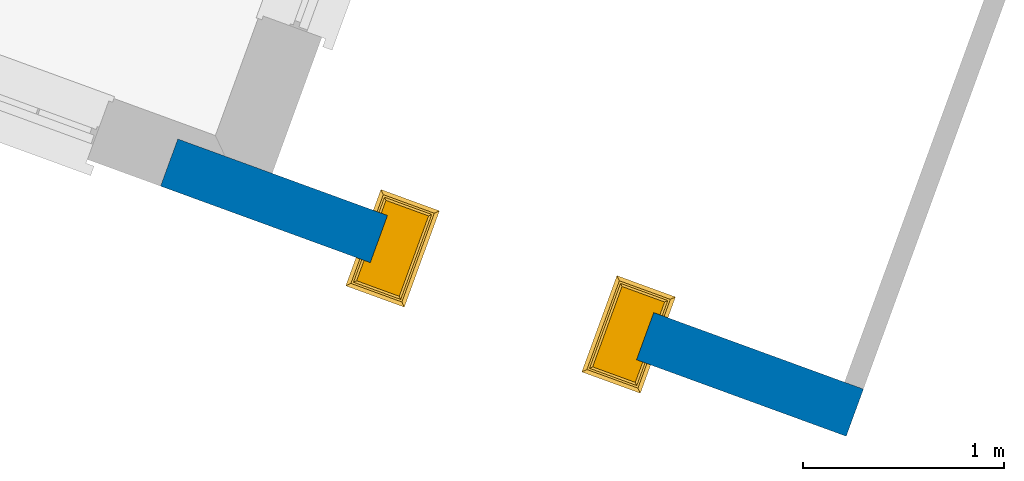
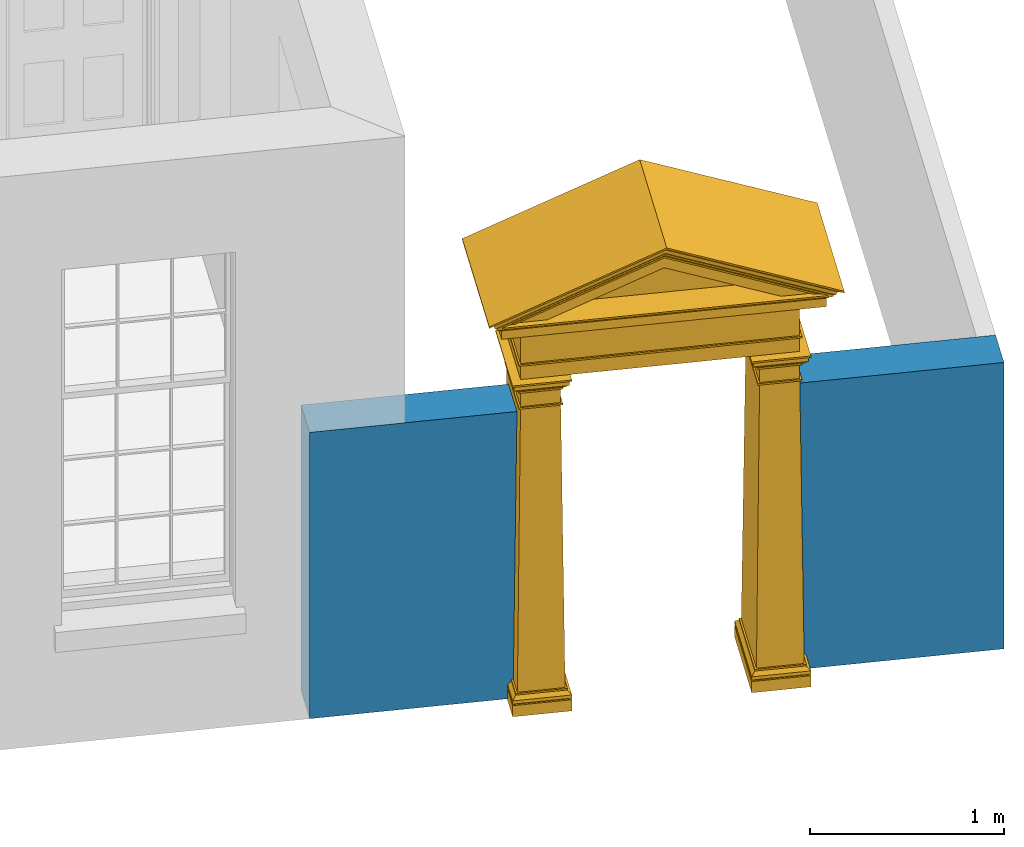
# One storey, part 2 of 6: 1 door, 1 wall, 1 opening.
"""IFC4 building model written with IfcOpenShell, lengths in metres."""

from ifc_helpers import new_model, si_unit, frame, origin, origin_with_axes, place, context, subcontext, project, spatial, polyline, outline, extrude, faceted_brep, source, transform, mapped, material, layer, layer_set, layer_usage, type_object, type_shapes, element, fill, save


model = new_model("IFC4")

# Units and contexts
model_context = context("Model", 3, world=origin_with_axes())
body_context = subcontext(model_context, "Body", "Model", "MODEL_VIEW")
ifc_project = project(units=[si_unit("PLANEANGLEUNIT", "RADIAN"), si_unit("MASSUNIT", "GRAM", prefix="KILO"), si_unit("FORCEUNIT", "NEWTON", prefix="KILO"), si_unit("LENGTHUNIT", "METRE"), si_unit("AREAUNIT", "SQUARE_METRE"), si_unit("VOLUMEUNIT", "CUBIC_METRE")], contexts=[model_context, model_context])

# Sites, building, storey
site_1_placement = place(None, origin_with_axes())
site_1 = spatial("IfcSite", under=ifc_project, at=site_1_placement, Name="Tamar")
site_2_placement = place(site_1_placement, origin_with_axes())
site_2 = spatial("IfcSite", under=site_1, at=site_2_placement, Name="Site plot-12", CompositionType="ELEMENT")
building_placement = place(None, origin_with_axes())
building = spatial("IfcBuilding", under=site_2, at=building_placement, Name="Building plot-12", CompositionType="ELEMENT")
storey_placement = place(None, frame((0.0, 0.0, 26.0), z_axis=(0.0, 0.0, 1.0), x_axis=(1.0, 0.0, 0.0)))
storey = spatial("IfcBuildingStorey", under=building, at=storey_placement, Name="plot-12 0", CompositionType="ELEMENT", Elevation=26.0)

# Wall, opening, door
ifc_material = material(Name="Masonry")
ifc_layer = layer(ifc_material, 0.25, ventilated=False)
ifc_layer_set = layer_set([ifc_layer], Name="fence_0_0.25")
ifc_layer_usage = layer_usage(ifc_layer_set, "AXIS2", "POSITIVE", -0.25)
wall_type = type_object("IfcWallType", Name="fence_0_0.25", PredefinedType="SOLIDWALL", material=ifc_layer_set)
wall_placement = place(storey_placement, frame((237.87153728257, 299.908144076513, 0.0), z_axis=(0.0, 0.0, 1.0), x_axis=(0.939432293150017, -0.342734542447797, 0.0)))
wall = element("IfcWall", 1, at=wall_placement, inside=storey, type_object=wall_type, material=ifc_layer_usage, Name="fence", context=body_context, shape_type="SweptSolid", body=[
    extrude(outline(polyline([(-0.25, -2.19517997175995e-14), (-0.250000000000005, -0.250000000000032), (3.38096917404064, -0.249999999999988), (3.38096917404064, 2.19587344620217e-14), (-0.25, -2.19517997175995e-14)])), origin_with_axes(), (0.0, 0.0, 1.0), 1.8),
])
opening_placement = place(wall_placement, frame((0.860484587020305, 0.0, -0.0100000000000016)))
opening = element("IfcOpeningElement", 2, at=opening_placement, cuts=wall, Name="My Opening", ObjectType="Opening", context=body_context, shape_type="SweptSolid", body=[
    extrude(outline(polyline([(0.0, -0.269999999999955), (1.41000000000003, -0.269999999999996), (1.41000000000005, 1.01999999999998), (1.43218770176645e-14, 1.02000000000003), (0.0, -0.269999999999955)])), origin_with_axes(), (0.0, 0.0, 1.0), 1.81),
])
door_type = type_object("IfcDoorType", Name="gate", OperationType="SINGLE_SWING_LEFT", PredefinedType="NOTDEFINED")
shared_shape = source(origin(), body_context, "Body", "Brep", [
    faceted_brep([(1.565, 0.25, 2.5), (1.565, -0.21, 2.5), (1.565, -0.21, 2.49), (1.565, 0.25, 2.49), (1.445, -0.09, 2.01), (1.215, -0.09, 2.01), (1.215, -0.09, 2.0), (1.445, -0.09, 2.0), (-0.035, -0.09, 2.180001), (-0.025, -0.08, 2.180001), (-0.025, 0.25, 2.180001), (-0.035, 0.25, 2.180001), (-0.025, -0.08, 2.170001), (-0.035, -0.09, 2.170001), (-0.035, 0.25, 2.170001), (-0.025, 0.25, 2.170001), (1.445, -0.09, 2.180001), (1.435, -0.08, 2.180001), (-0.025, -0.08, 2.37), (-0.025, 0.25, 2.37), (1.435, -0.08, 2.170001), (1.445, -0.09, 2.170001), (-0.025, -0.08, 2.08), (-0.025, 0.25, 2.08), (1.445, 0.25, 2.180001), (1.435, 0.25, 2.180001), (1.435, -0.08, 2.37), (-0.035, -0.09, 2.37), (-0.035, 0.25, 2.37), (1.435, 0.25, 2.37), (1.445, 0.25, 2.170001), (1.435, 0.25, 2.170001), (0.235, -0.08, 2.08), (0.235, 0.25, 2.08), (1.175, 0.25, 2.08), (1.175, -0.08, 2.08), (-0.075, 0.25, 2.08), (-0.075, -0.13, 2.08), (1.445, -0.09, 2.37), (-0.035, -0.09, 2.380001), (-0.035, 0.25, 2.380001), (1.445, 0.25, 2.37), (1.435, -0.08, 2.08), (1.435, 0.25, 2.08), (0.235, 0.38, 2.07), (0.235, 0.38, 2.08), (0.235, 0.33, 2.08), (0.235, -0.13, 2.08), (-0.075, 0.25, 2.07), (-0.075, -0.13, 2.07), (1.445, -0.09, 2.380001), (-0.045, -0.1, 2.39), (-0.045, 0.25, 2.39), (1.455, 0.25, 2.39), (1.455, -0.1, 2.39), (1.445, 0.25, 2.380001), (1.485, -0.13, 2.08), (1.485, 0.25, 2.08), (0.235, -0.13, 2.07), (1.175, -0.13, 2.08), (-0.065, 0.25, 2.07), (-0.065, -0.12, 2.07), (-0.055, -0.11, 2.39), (-0.055, 0.25, 2.39), (1.465, 0.25, 2.39), (1.465, -0.11, 2.39), (1.485, 0.25, 2.07), (1.485, -0.13, 2.07), (0.225, 0.25, 2.07), (0.235, 0.25, 2.07), (0.225, -0.12, 2.07), (-0.065, 0.25, 2.04), (-0.065, -0.12, 2.04), (1.475, 0.25, 2.07), (1.475, -0.12, 2.07), (1.175, 0.25, 2.07), (1.185, 0.25, 2.07), (1.185, -0.12, 2.07), (1.175, -0.13, 2.07), (1.175, 0.33, 2.08), (1.175, 0.38, 2.07), (-0.055, -0.11, 2.4), (-0.055, 0.25, 2.4), (1.465, 0.25, 2.4), (1.465, -0.11, 2.4), (0.225, 0.25, 2.04), (0.225, -0.12, 2.04), (-0.055, 0.25, 2.04), (-0.055, -0.11, 2.04), (1.475, 0.25, 2.04), (1.475, -0.12, 2.04), (1.185, 0.25, 2.04), (1.195, 0.25, 2.04), (1.195, -0.11, 2.04), (1.185, -0.12, 2.04), (-0.065, -0.12, 2.4), (-0.065, 0.25, 2.4), (-0.085, -0.14, 2.42), (-0.085, 0.25, 2.42), (-0.085, -0.14, 2.43), (-0.085, 0.25, 2.43), (1.495, 0.25, 2.43), (1.495, -0.14, 2.43), (1.495, -0.14, 2.42), (1.495, 0.25, 2.42), (1.475, 0.25, 2.4), (1.475, -0.12, 2.4), (0.215, 0.25, 2.04), (0.215, -0.11, 2.04), (-0.055, 0.25, 2.03), (-0.055, -0.11, 2.03), (0.215, 0.25, 2.03), (0.215, -0.11, 2.03), (1.465, 0.25, 2.04), (1.465, -0.11, 2.04), (1.195, 0.25, 2.03), (1.195, -0.11, 2.03), (1.465, 0.25, 2.03), (1.465, -0.11, 2.03), (-0.145, -0.2, 2.43), (-0.145, 0.25, 2.43), (1.555, 0.25, 2.43), (1.555, -0.2, 2.43), (-0.035, 0.25, 2.01), (-0.035, -0.09, 2.01), (0.195, 0.25, 2.01), (0.195, -0.09, 2.01), (1.215, 0.25, 2.01), (1.445, 0.25, 2.01), (-0.145, -0.2, 2.49), (-0.145, 0.25, 2.49), (1.555, 0.25, 2.49), (1.555, -0.2, 2.49), (-0.035, 0.25, 2.0), (-0.035, -0.09, 2.0), (0.195, 0.25, 2.0), (0.195, -0.09, 2.0), (1.215, 0.25, 2.0), (1.445, 0.25, 2.0), (-0.155, -0.21, 2.49), (-0.155, 0.25, 2.49), (-0.155, -0.21, 2.5), (-0.155, 0.25, 2.5), (-0.165, -0.22, 2.51), (-0.165, 0.25, 2.51), (1.575, 0.25, 2.51), (1.575, -0.22, 2.51), (-0.025, -0.08, 2.0), (-0.025, 0.25, 2.0), (0.185, -0.08, 2.0), (0.185, 0.25, 2.0), (-0.025, 0.25, 1.91), (-0.025, -0.08, 1.91), (0.185, 0.25, 1.91), (0.185, -0.08, 1.91), (1.225, 0.25, 2.0), (1.225, -0.08, 2.0), (1.435, -0.08, 2.0), (1.435, 0.25, 2.0), (1.435, 0.25, 1.91), (1.435, -0.08, 1.91), (1.225, 0.25, 1.91), (1.225, -0.08, 1.91), (-0.175, -0.23, 2.51), (-0.175, 0.25, 2.51), (1.585, 0.25, 2.51), (1.585, -0.23, 2.51), (-0.035, 0.25, 1.91), (-0.035, -0.09, 1.91), (0.195, -0.09, 1.91), (0.195, 0.25, 1.91), (1.445, -0.09, 1.91), (1.445, 0.25, 1.91), (1.215, -0.09, 1.91), (1.215, 0.25, 1.91), (-0.175, -0.23, 2.52), (-0.175, 0.25, 2.52), (1.585, 0.25, 2.52), (1.585, -0.23, 2.52), (-0.035, 0.25, 1.9), (-0.035, -0.09, 1.9), (0.195, 0.25, 1.9), (0.195, -0.09, 1.9), (-0.025, -0.08, 1.9), (-0.025, 0.25, 1.9), (0.185, -0.08, 1.9), (0.185, 0.25, 1.9), (-0.045, 0.25, 0.13), (-0.045, -0.1, 0.13), (0.205, 0.25, 0.13), (0.205, -0.1, 0.13), (1.445, -0.09, 1.9), (1.445, 0.25, 1.9), (1.435, -0.08, 1.9), (1.435, 0.25, 1.9), (1.455, -0.1, 0.13), (1.455, 0.25, 0.13), (1.225, 0.25, 1.9), (1.205, 0.25, 0.13), (1.205, -0.1, 0.13), (1.225, -0.08, 1.9), (1.215, -0.09, 1.9), (1.215, 0.25, 1.9), (-0.185, -0.24, 2.526), (-0.185, 0.25, 2.526), (-0.150858, -0.23, 2.52), (1.560858, -0.23, 2.52), (-0.195, -0.25, 2.551001), (-0.195, 0.25, 2.551001), (-0.223, 0.25, 2.561001), (-0.223, -0.278, 2.561001), (1.633, -0.278, 2.561001), (1.605, -0.25, 2.551001), (1.605, 0.25, 2.551001), (1.633, 0.25, 2.561001), (1.595, 0.25, 2.526), (1.595, -0.24, 2.526), (-0.055, 0.25, 0.13), (-0.055, -0.11, 0.13), (0.215, 0.25, 0.13), (0.215, -0.11, 0.13), (1.465, -0.11, 0.13), (1.465, 0.25, 0.13), (1.195, 0.25, 0.13), (1.195, -0.11, 0.13), (0.705, -0.23, 2.884508), (0.705, -0.24, 2.89465), (0.705, -0.23, 2.874508), (1.486538, -0.21, 2.522499), (-0.076538, -0.21, 2.522499), (0.705, -0.25, 2.923792), (0.705, -0.278, 2.945389), (-0.223, -0.278, 2.571001), (-0.223, 0.25, 2.571001), (1.633, 0.25, 2.571001), (1.633, -0.278, 2.571001), (-0.055, 0.25, 0.12), (-0.055, -0.11, 0.12), (0.215, 0.25, 0.12), (0.215, -0.11, 0.12), (-0.075, 0.25, 0.1), (-0.075, -0.13, 0.1), (0.235, 0.25, 0.1), (0.235, -0.13, 0.1), (1.465, 0.25, 0.12), (1.465, -0.11, 0.12), (1.485, 0.25, 0.1), (1.485, -0.13, 0.1), (1.195, 0.25, 0.12), (1.175, 0.25, 0.1), (1.175, -0.13, 0.1), (1.195, -0.11, 0.12), (-0.13784, -0.22, 2.52125), (0.705, -0.22, 2.870365), (1.51068, -0.21, 2.522499), (1.54784, -0.22, 2.52125), (1.316733, -0.2, 2.523749), (0.093267, -0.2, 2.523749), (-0.10068, -0.21, 2.522499), (0.705, -0.278, 2.955389), (0.705, 0.25, 2.955389), (-0.075, 0.25, 0.08), (-0.075, -0.13, 0.08), (0.235, 0.25, 0.08), (0.235, -0.13, 0.08), (1.485, -0.13, 0.08), (1.485, 0.25, 0.08), (1.175, 0.25, 0.08), (1.175, -0.13, 0.08), (0.705, -0.21, 2.856223), (0.705, -0.21, 2.846222), (1.272495, -0.14, 2.53125), (0.137505, -0.14, 2.53125), (-0.06352, -0.2, 2.523749), (1.47352, -0.2, 2.523749), (-0.065, 0.25, 0.07), (-0.065, -0.12, 0.07), (0.225, 0.25, 0.07), (0.225, -0.12, 0.07), (1.475, 0.25, 0.07), (1.475, -0.12, 0.07), (1.185, 0.25, 0.07), (1.185, -0.12, 0.07), (0.705, -0.2, 2.842082), (1.298626, -0.14, 2.53125), (1.214197, -0.12, 2.533749), (0.195803, -0.12, 2.533749), (0.111374, -0.14, 2.53125), (0.705, -0.2, 2.777137), (-0.075, 0.25, 0.07), (-0.075, -0.13, 0.07), (0.235, -0.13, 0.07), (0.235, 0.25, 0.07), (0.235, -0.13, 0.0), (-0.075, -0.13, 0.0), (-0.075, 0.25, 0.0), (0.235, 0.25, 0.0), (1.485, -0.13, 0.07), (1.485, 0.25, 0.07), (1.485, -0.13, 0.0), (1.175, -0.13, 0.0), (1.175, 0.25, 0.0), (1.485, 0.25, 0.0), (1.175, -0.13, 0.07), (1.175, 0.25, 0.07), (0.705, -0.14, 2.766314), (0.705, -0.14, 2.777137), (0.705, -0.12, 2.744666), (1.185048, -0.11, 2.535), (0.224952, -0.11, 2.535), (0.705, -0.11, 2.744666), (1.211179, -0.11, 2.535), (1.12675, -0.09, 2.537501), (0.28325, -0.09, 2.537501), (0.198821, -0.11, 2.535), (0.705, -0.11, 2.733843), (1.152881, -0.09, 2.537501), (1.18203, -0.1, 2.536251), (0.286268, -0.08, 2.538751), (1.123732, -0.08, 2.538751), (0.22797, -0.1, 2.536251), (0.257119, -0.09, 2.537501), (0.705, -0.1, 2.733843), (0.705, -0.09, 2.712194), (0.705, -0.09, 2.723017), (0.705, -0.08, 2.712194), (-0.155, 0.46, 2.5), (-0.155, 0.46, 2.49), (-0.035, 0.34, 2.01), (0.195, 0.34, 2.01), (0.195, 0.34, 2.0), (-0.035, 0.34, 2.0), (1.445, 0.34, 2.180001), (1.435, 0.33, 2.180001), (1.435, 0.33, 2.170001), (1.445, 0.34, 2.170001), (-0.035, 0.34, 2.180001), (-0.025, 0.33, 2.180001), (1.435, 0.33, 2.37), (-0.025, 0.33, 2.170001), (-0.035, 0.34, 2.170001), (1.435, 0.33, 2.08), (-0.025, 0.33, 2.37), (1.445, 0.34, 2.37), (1.485, 0.38, 2.08), (-0.035, 0.34, 2.37), (1.445, 0.34, 2.380001), (-0.025, 0.33, 2.08), (1.175, 0.38, 2.08), (1.485, 0.38, 2.07), (-0.035, 0.34, 2.380001), (1.455, 0.35, 2.39), (-0.045, 0.35, 2.39), (-0.075, 0.38, 2.08), (1.475, 0.37, 2.07), (1.465, 0.36, 2.39), (-0.055, 0.36, 2.39), (-0.075, 0.38, 2.07), (1.185, 0.37, 2.07), (1.475, 0.37, 2.04), (-0.065, 0.37, 2.07), (0.225, 0.37, 2.07), (1.465, 0.36, 2.4), (-0.055, 0.36, 2.4), (1.185, 0.37, 2.04), (1.465, 0.36, 2.04), (-0.065, 0.37, 2.04), (0.215, 0.36, 2.04), (0.225, 0.37, 2.04), (1.475, 0.37, 2.4), (1.495, 0.39, 2.42), (1.495, 0.39, 2.43), (-0.085, 0.39, 2.43), (-0.085, 0.39, 2.42), (-0.065, 0.37, 2.4), (1.195, 0.36, 2.04), (1.465, 0.36, 2.03), (1.195, 0.36, 2.03), (-0.055, 0.36, 2.04), (0.215, 0.36, 2.03), (-0.055, 0.36, 2.03), (1.555, 0.45, 2.43), (-0.145, 0.45, 2.43), (1.445, 0.34, 2.01), (1.215, 0.34, 2.01), (1.555, 0.45, 2.49), (-0.145, 0.45, 2.49), (1.445, 0.34, 2.0), (1.215, 0.34, 2.0), (1.565, 0.46, 2.49), (1.565, 0.46, 2.5), (1.575, 0.47, 2.51), (-0.165, 0.47, 2.51), (1.435, 0.33, 2.0), (1.225, 0.33, 2.0), (1.435, 0.33, 1.91), (1.225, 0.33, 1.91), (0.185, 0.33, 2.0), (-0.025, 0.33, 2.0), (-0.025, 0.33, 1.91), (0.185, 0.33, 1.91), (1.585, 0.48, 2.51), (-0.175, 0.48, 2.51), (1.445, 0.34, 1.91), (1.215, 0.34, 1.91), (-0.035, 0.34, 1.91), (0.195, 0.34, 1.91), (1.585, 0.48, 2.52), (-0.175, 0.48, 2.52), (1.445, 0.34, 1.9), (1.215, 0.34, 1.9), (1.435, 0.33, 1.9), (1.225, 0.33, 1.9), (1.455, 0.35, 0.13), (1.205, 0.35, 0.13), (-0.035, 0.34, 1.9), (-0.025, 0.33, 1.9), (-0.045, 0.35, 0.13), (0.205, 0.35, 0.13), (0.185, 0.33, 1.9), (0.195, 0.34, 1.9), (1.595, 0.49, 2.526), (1.560858, 0.48, 2.52), (-0.150858, 0.48, 2.52), (1.605, 0.5, 2.551001), (1.633, 0.528, 2.561001), (-0.223, 0.528, 2.561001), (-0.195, 0.5, 2.551001), (-0.185, 0.49, 2.526), (1.465, 0.36, 0.13), (1.195, 0.36, 0.13), (-0.055, 0.36, 0.13), (0.215, 0.36, 0.13), (0.705, 0.48, 2.884508), (0.705, 0.49, 2.89465), (0.705, 0.48, 2.874508), (-0.076538, 0.46, 2.522499), (1.486538, 0.46, 2.522499), (0.705, 0.5, 2.923792), (0.705, 0.528, 2.945389), (1.633, 0.528, 2.571001), (-0.223, 0.528, 2.571001), (1.465, 0.36, 0.12), (1.195, 0.36, 0.12), (1.485, 0.38, 0.1), (1.175, 0.38, 0.1), (-0.055, 0.36, 0.12), (-0.075, 0.38, 0.1), (0.235, 0.38, 0.1), (0.215, 0.36, 0.12), (1.54784, 0.47, 2.52125), (0.705, 0.47, 2.870365), (-0.10068, 0.46, 2.522499), (-0.13784, 0.47, 2.52125), (0.093267, 0.45, 2.523749), (1.316733, 0.45, 2.523749), (1.51068, 0.46, 2.522499), (0.705, 0.528, 2.955389), (1.485, 0.38, 0.08), (1.175, 0.38, 0.08), (-0.075, 0.38, 0.08), (0.235, 0.38, 0.08), (0.705, 0.46, 2.856223), (0.705, 0.46, 2.846222), (0.137505, 0.39, 2.53125), (1.272495, 0.39, 2.53125), (1.47352, 0.45, 2.523749), (-0.06352, 0.45, 2.523749), (1.475, 0.37, 0.07), (1.185, 0.37, 0.07), (-0.065, 0.37, 0.07), (0.225, 0.37, 0.07), (0.705, 0.45, 2.842082), (0.111374, 0.39, 2.53125), (0.195803, 0.37, 2.533749), (1.214197, 0.37, 2.533749), (1.298626, 0.39, 2.53125), (0.705, 0.45, 2.777137), (1.485, 0.38, 0.07), (1.175, 0.38, 0.07), (1.175, 0.38, 0.0), (1.485, 0.38, 0.0), (-0.075, 0.38, 0.07), (-0.075, 0.38, 0.0), (0.235, 0.38, 0.0), (0.235, 0.38, 0.07), (0.705, 0.39, 2.766314), (0.705, 0.39, 2.777137), (0.705, 0.37, 2.744666), (0.224952, 0.36, 2.535), (1.185048, 0.36, 2.535), (0.705, 0.36, 2.744666), (0.198821, 0.36, 2.535), (0.28325, 0.34, 2.537501), (1.12675, 0.34, 2.537501), (1.211179, 0.36, 2.535), (0.705, 0.36, 2.733843), (0.257119, 0.34, 2.537501), (0.22797, 0.35, 2.536251), (1.123732, 0.33, 2.538751), (0.286268, 0.33, 2.538751), (1.18203, 0.35, 2.536251), (1.152881, 0.34, 2.537501), (0.705, 0.35, 2.733843), (0.705, 0.34, 2.723017), (0.705, 0.34, 2.712194), (0.705, 0.33, 2.712194)], [[[0, 1, 2, 3]], [[4, 5, 6, 7]], [[8, 9, 10, 11]], [[12, 13, 14, 15]], [[13, 8, 11, 14]], [[9, 8, 16, 17]], [[9, 18, 19, 10]], [[13, 12, 20, 21]], [[22, 12, 15, 23]], [[8, 13, 21, 16]], [[17, 16, 24, 25]], [[18, 9, 17, 26]], [[27, 28, 19, 18]], [[26, 17, 25, 29]], [[16, 21, 30, 24]], [[21, 20, 31, 30]], [[32, 33, 34, 35]], [[12, 32, 35, 20]], [[12, 22, 32]], [[22, 23, 36, 37]], [[27, 18, 26, 38]], [[39, 40, 28, 27]], [[41, 38, 26, 29]], [[20, 42, 43, 31]], [[44, 45, 46]], [[42, 20, 35]], [[37, 47, 32, 22]], [[36, 48, 49, 37]], [[39, 27, 38, 50]], [[51, 52, 40, 39]], [[53, 54, 50, 55]], [[55, 50, 38, 41]], [[43, 42, 56, 57]], [[32, 47, 58]], [[59, 56, 42, 35]], [[58, 47, 37, 49]], [[48, 60, 61, 49]], [[51, 39, 50, 54]], [[62, 63, 52, 51]], [[64, 65, 54, 53]], [[66, 57, 56, 67]], [[68, 69, 58, 70]], [[60, 71, 72, 61]], [[73, 66, 67, 74]], [[75, 76, 77, 78]], [[34, 79, 80, 75]], [[59, 78, 67, 56]], [[61, 70, 58, 49]], [[62, 51, 54, 65]], [[81, 82, 63, 62]], [[83, 84, 65, 64]], [[85, 68, 70, 86]], [[71, 87, 88, 72]], [[86, 70, 61, 72]], [[77, 74, 67, 78]], [[89, 73, 74, 90]], [[91, 92, 93, 94]], [[76, 91, 94, 77]], [[81, 62, 65, 84]], [[95, 96, 82, 81]], [[97, 98, 96, 95]], [[99, 100, 98, 97]], [[101, 102, 103, 104]], [[105, 106, 84, 83]], [[104, 103, 106, 105]], [[107, 85, 86, 108]], [[87, 109, 110, 88]], [[88, 108, 86, 72]], [[111, 107, 108, 112]], [[77, 94, 90, 74]], [[113, 89, 90, 114]], [[92, 115, 116, 93]], [[93, 114, 90, 94]], [[117, 113, 114, 118]], [[95, 81, 84, 106]], [[97, 95, 106, 103]], [[119, 120, 100, 99]], [[99, 97, 103, 102]], [[121, 122, 102, 101]], [[109, 123, 124, 110]], [[112, 108, 88, 110]], [[125, 111, 112, 126]], [[115, 127, 5, 116]], [[93, 116, 118, 114]], [[128, 117, 118, 4]], [[129, 130, 120, 119]], [[119, 99, 102, 122]], [[131, 132, 122, 121]], [[123, 133, 134, 124]], [[110, 124, 126, 112]], [[135, 125, 126, 136]], [[127, 137, 6, 5]], [[4, 118, 116, 5]], [[138, 128, 4, 7]], [[139, 140, 130, 129]], [[129, 119, 122, 132]], [[141, 142, 140, 139]], [[143, 144, 142, 141]], [[145, 146, 1, 0]], [[3, 2, 132, 131]], [[147, 134, 133, 148]], [[126, 124, 134, 136]], [[135, 136, 149, 150]], [[148, 151, 152, 147]], [[153, 150, 149, 154]], [[6, 137, 155, 156]], [[7, 157, 158, 138]], [[159, 158, 157, 160]], [[155, 161, 162, 156]], [[139, 129, 132, 2]], [[141, 139, 2, 1]], [[163, 164, 144, 143]], [[143, 141, 1, 146]], [[165, 166, 146, 145]], [[147, 149, 136, 134]], [[167, 168, 152, 151]], [[147, 152, 154, 149]], [[154, 169, 170, 153]], [[156, 157, 7, 6]], [[160, 157, 156, 162]], [[171, 172, 159, 160]], [[173, 162, 161, 174]], [[175, 176, 164, 163]], [[163, 143, 146, 166]], [[177, 178, 166, 165]], [[179, 180, 168, 167]], [[154, 152, 168, 169]], [[181, 170, 169, 182]], [[183, 180, 179, 184]], [[181, 182, 185, 186]], [[184, 187, 188, 183]], [[189, 186, 185, 190]], [[160, 162, 173, 171]], [[191, 192, 172, 171]], [[191, 193, 194, 192]], [[193, 195, 196, 194]], [[197, 198, 199, 200]], [[201, 202, 197, 200]], [[174, 202, 201, 173]], [[203, 204, 176, 175]], [[175, 163, 205]], [[163, 166, 206, 205]], [[207, 208, 204, 203]], [[209, 208, 207, 210]], [[211, 212, 213, 214]], [[215, 216, 178, 177]], [[213, 212, 216, 215]], [[178, 206, 166]], [[180, 182, 169, 168]], [[183, 185, 182, 180]], [[187, 217, 218, 188]], [[183, 188, 190, 185]], [[219, 189, 190, 220]], [[201, 191, 171, 173]], [[200, 193, 191, 201]], [[195, 193, 200, 199]], [[195, 221, 222, 196]], [[198, 223, 224, 199]], [[175, 225, 226, 203]], [[225, 175, 205, 227]], [[205, 206, 228, 229]], [[203, 226, 230, 207]], [[207, 230, 231, 210]], [[232, 233, 209, 210]], [[234, 235, 211, 214]], [[231, 230, 212, 211]], [[216, 226, 225, 178]], [[212, 230, 226, 216]], [[227, 206, 178, 225]], [[217, 236, 237, 218]], [[220, 190, 188, 218]], [[238, 219, 220, 239]], [[236, 240, 241, 237]], [[242, 238, 239, 243]], [[221, 195, 199, 224]], [[244, 222, 221, 245]], [[246, 244, 245, 247]], [[248, 249, 250, 251]], [[223, 248, 251, 224]], [[227, 205, 252, 253]], [[254, 228, 206, 255]], [[256, 257, 229, 228]], [[252, 205, 229, 258]], [[231, 259, 232, 210]], [[260, 233, 232, 259]], [[234, 260, 259, 235]], [[259, 231, 211, 235]], [[253, 255, 206, 227]], [[239, 220, 218, 237]], [[261, 262, 241, 240]], [[243, 239, 237, 241]], [[263, 242, 243, 264]], [[224, 251, 245, 221]], [[251, 250, 247, 245]], [[265, 266, 246, 247]], [[249, 267, 268, 250]], [[253, 252, 258, 269]], [[270, 228, 254, 269]], [[269, 254, 255, 253]], [[256, 271, 272, 257]], [[273, 229, 257]], [[274, 256, 228]], [[269, 258, 229, 270]], [[261, 275, 276, 262]], [[264, 243, 241, 262]], [[277, 263, 264, 278]], [[250, 268, 265, 247]], [[279, 266, 265, 280]], [[267, 281, 282, 268]], [[283, 274, 228, 270]], [[284, 271, 256]], [[271, 285, 286, 272]], [[287, 257, 272]], [[270, 229, 273, 283]], [[283, 273, 257, 288]], [[288, 256, 274, 283]], [[289, 290, 276, 275]], [[262, 276, 278, 264]], [[278, 291, 292, 277]], [[293, 294, 295, 296]], [[280, 265, 268, 282]], [[297, 298, 279, 280]], [[299, 300, 301, 302]], [[303, 282, 281, 304]], [[305, 271, 284, 306]], [[306, 284, 256, 288]], [[307, 285, 271, 305]], [[285, 308, 309, 286]], [[305, 272, 286, 307]], [[288, 257, 287, 306]], [[306, 287, 272, 305]], [[289, 295, 294, 290]], [[278, 276, 290, 291]], [[296, 292, 291, 293]], [[290, 294, 293, 291]], [[280, 282, 303, 297]], [[302, 298, 297, 299]], [[299, 297, 303, 300]], [[304, 301, 300, 303]], [[310, 311, 285, 307]], [[311, 308, 285]], [[308, 312, 313, 309]], [[314, 286, 309]], [[307, 286, 314, 310]], [[315, 308, 311, 310]], [[316, 312, 308, 317]], [[318, 313, 312, 319]], [[320, 309, 313, 321]], [[310, 314, 309, 315]], [[322, 317, 308, 315]], [[323, 312, 316, 324]], [[324, 316, 317, 322]], [[323, 313, 318, 325]], [[325, 319, 312, 323]], [[325, 318, 319]], [[315, 309, 320, 322]], [[324, 321, 313, 323]], [[322, 320, 321, 324]], [[142, 326, 327, 140]], [[328, 329, 330, 331]], [[332, 333, 25, 24]], [[334, 335, 30, 31]], [[335, 332, 24, 30]], [[333, 332, 336, 337]], [[333, 338, 29, 25]], [[335, 334, 339, 340]], [[341, 334, 31, 43]], [[332, 335, 340, 336]], [[337, 336, 11, 10]], [[338, 333, 337, 342]], [[343, 41, 29, 338]], [[342, 337, 10, 19]], [[336, 340, 14, 11]], [[340, 339, 15, 14]], [[79, 34, 33, 46]], [[334, 79, 46, 339]], [[334, 341, 79]], [[341, 43, 57, 344]], [[343, 338, 342, 345]], [[346, 55, 41, 343]], [[28, 345, 342, 19]], [[339, 347, 23, 15]], [[35, 34, 75, 78]], [[33, 32, 58, 69]], [[347, 339, 46]], [[344, 348, 79, 341]], [[57, 66, 349, 344]], [[346, 343, 345, 350]], [[351, 53, 55, 346]], [[52, 352, 350, 40]], [[40, 350, 345, 28]], [[23, 347, 353, 36]], [[79, 348, 80]], [[45, 353, 347, 46]], [[80, 348, 344, 349]], [[66, 73, 354, 349]], [[351, 346, 350, 352]], [[355, 64, 53, 351]], [[63, 356, 352, 52]], [[48, 36, 353, 357]], [[76, 75, 80, 358]], [[73, 89, 359, 354]], [[60, 48, 357, 360]], [[69, 68, 361, 44]], [[46, 33, 69, 44]], [[45, 44, 357, 353]], [[354, 358, 80, 349]], [[355, 351, 352, 356]], [[362, 83, 64, 355]], [[82, 363, 356, 63]], [[91, 76, 358, 364]], [[89, 113, 365, 359]], [[364, 358, 354, 359]], [[361, 360, 357, 44]], [[71, 60, 360, 366]], [[85, 107, 367, 368]], [[68, 85, 368, 361]], [[362, 355, 356, 363]], [[369, 105, 83, 362]], [[370, 104, 105, 369]], [[371, 101, 104, 370]], [[100, 372, 373, 98]], [[96, 374, 363, 82]], [[98, 373, 374, 96]], [[92, 91, 364, 375]], [[113, 117, 376, 365]], [[365, 375, 364, 359]], [[115, 92, 375, 377]], [[361, 368, 366, 360]], [[87, 71, 366, 378]], [[107, 111, 379, 367]], [[367, 378, 366, 368]], [[109, 87, 378, 380]], [[369, 362, 363, 374]], [[370, 369, 374, 373]], [[381, 121, 101, 371]], [[371, 370, 373, 372]], [[120, 382, 372, 100]], [[117, 128, 383, 376]], [[377, 375, 365, 376]], [[127, 115, 377, 384]], [[111, 125, 329, 379]], [[367, 379, 380, 378]], [[123, 109, 380, 328]], [[385, 131, 121, 381]], [[381, 371, 372, 382]], [[130, 386, 382, 120]], [[128, 138, 387, 383]], [[376, 383, 384, 377]], [[137, 127, 384, 388]], [[125, 135, 330, 329]], [[328, 380, 379, 329]], [[133, 123, 328, 331]], [[389, 3, 131, 385]], [[385, 381, 382, 386]], [[390, 0, 3, 389]], [[391, 145, 0, 390]], [[144, 392, 326, 142]], [[140, 327, 386, 130]], [[393, 387, 138, 158]], [[384, 383, 387, 388]], [[137, 388, 394, 155]], [[158, 159, 395, 393]], [[161, 155, 394, 396]], [[330, 135, 150, 397]], [[331, 398, 148, 133]], [[151, 148, 398, 399]], [[150, 153, 400, 397]], [[389, 385, 386, 327]], [[390, 389, 327, 326]], [[401, 165, 145, 391]], [[391, 390, 326, 392]], [[164, 402, 392, 144]], [[393, 394, 388, 387]], [[172, 403, 395, 159]], [[393, 395, 396, 394]], [[396, 404, 174, 161]], [[397, 398, 331, 330]], [[399, 398, 397, 400]], [[405, 167, 151, 399]], [[406, 400, 153, 170]], [[407, 177, 165, 401]], [[401, 391, 392, 402]], [[176, 408, 402, 164]], [[192, 409, 403, 172]], [[396, 395, 403, 404]], [[202, 174, 404, 410]], [[411, 409, 192, 194]], [[202, 410, 412, 197]], [[194, 196, 413, 411]], [[198, 197, 412, 414]], [[399, 400, 406, 405]], [[415, 179, 167, 405]], [[415, 416, 184, 179]], [[416, 417, 187, 184]], [[186, 189, 418, 419]], [[420, 181, 186, 419]], [[170, 181, 420, 406]], [[421, 215, 177, 407]], [[407, 401, 422]], [[401, 402, 423, 422]], [[424, 213, 215, 421]], [[214, 213, 424, 425]], [[426, 427, 208, 209]], [[204, 428, 408, 176]], [[208, 427, 428, 204]], [[408, 423, 402]], [[409, 410, 404, 403]], [[411, 412, 410, 409]], [[196, 222, 429, 413]], [[411, 413, 414, 412]], [[223, 198, 414, 430]], [[420, 415, 405, 406]], [[419, 416, 415, 420]], [[417, 416, 419, 418]], [[417, 431, 217, 187]], [[189, 219, 432, 418]], [[407, 433, 434, 421]], [[433, 407, 422, 435]], [[422, 423, 436, 437]], [[421, 434, 438, 424]], [[424, 438, 439, 425]], [[440, 234, 214, 425]], [[233, 441, 426, 209]], [[439, 438, 427, 426]], [[428, 434, 433, 408]], [[427, 438, 434, 428]], [[435, 423, 408, 433]], [[222, 244, 442, 429]], [[430, 414, 413, 429]], [[248, 223, 430, 443]], [[244, 246, 444, 442]], [[249, 248, 443, 445]], [[431, 417, 418, 432]], [[236, 217, 431, 446]], [[240, 236, 446, 447]], [[238, 242, 448, 449]], [[219, 238, 449, 432]], [[435, 422, 450, 451]], [[452, 436, 423, 453]], [[454, 455, 437, 436]], [[450, 422, 437, 456]], [[439, 457, 440, 425]], [[260, 234, 440, 457]], [[233, 260, 457, 441]], [[457, 439, 426, 441]], [[451, 453, 423, 435]], [[443, 430, 429, 442]], [[266, 458, 444, 246]], [[445, 443, 442, 444]], [[267, 249, 445, 459]], [[432, 449, 446, 431]], [[449, 448, 447, 446]], [[460, 261, 240, 447]], [[242, 263, 461, 448]], [[451, 450, 456, 462]], [[463, 436, 452, 462]], [[462, 452, 453, 451]], [[454, 464, 465, 455]], [[466, 437, 455]], [[467, 454, 436]], [[462, 456, 437, 463]], [[266, 279, 468, 458]], [[459, 445, 444, 458]], [[281, 267, 459, 469]], [[448, 461, 460, 447]], [[275, 261, 460, 470]], [[263, 277, 471, 461]], [[472, 467, 436, 463]], [[473, 464, 454]], [[464, 474, 475, 465]], [[476, 455, 465]], [[463, 437, 466, 472]], [[472, 466, 455, 477]], [[477, 454, 467, 472]], [[298, 478, 468, 279]], [[458, 468, 469, 459]], [[469, 479, 304, 281]], [[480, 481, 302, 301]], [[470, 460, 461, 471]], [[482, 289, 275, 470]], [[483, 484, 296, 295]], [[485, 471, 277, 292]], [[486, 464, 473, 487]], [[487, 473, 454, 477]], [[488, 474, 464, 486]], [[474, 489, 490, 475]], [[486, 465, 475, 488]], [[477, 455, 476, 487]], [[487, 476, 465, 486]], [[298, 302, 481, 478]], [[469, 468, 478, 479]], [[301, 304, 479, 480]], [[478, 481, 480, 479]], [[470, 471, 485, 482]], [[295, 289, 482, 483]], [[483, 482, 485, 484]], [[292, 296, 484, 485]], [[491, 492, 474, 488]], [[492, 489, 474]], [[489, 493, 494, 490]], [[495, 475, 490]], [[488, 475, 495, 491]], [[496, 489, 492, 491]], [[497, 493, 489, 498]], [[499, 494, 493, 500]], [[501, 490, 494, 502]], [[491, 495, 490, 496]], [[503, 498, 489, 496]], [[497, 504, 505, 493]], [[504, 497, 498, 503]], [[505, 494, 499, 506]], [[506, 500, 493, 505]], [[506, 499, 500]], [[496, 490, 501, 503]], [[504, 502, 494, 505]], [[503, 501, 502, 504]], [[78, 59, 35]]]),
])
type_shapes(door_type, [shared_shape])
door_placement = place(storey_placement, frame((238.587365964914, 299.359579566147, -0.0100000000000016), z_axis=(0.0, 0.0, 1.0), x_axis=(1.32459953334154, -0.483255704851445, 0.0)))
door = element("IfcDoor", 3, at=door_placement, inside=storey, type_object=door_type, Name="house entrance gate", OverallHeight=1.81, OverallWidth=1.41, context=body_context, shape_type="MappedRepresentation", body=[
    mapped(shared_shape, transform((0.0, 0.0, 0.0), scale=1.0)),
])
fill(opening, door)

save(model, "model.ifc")
